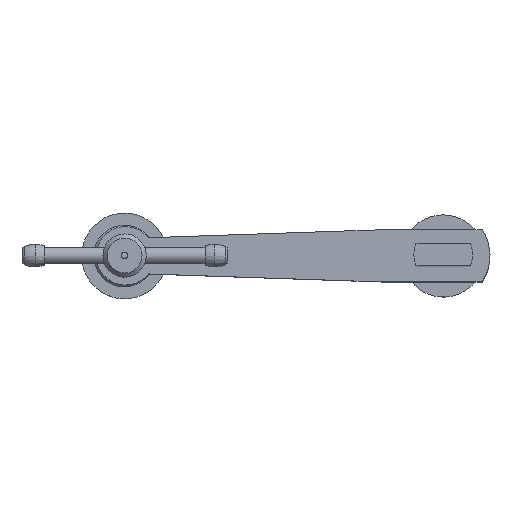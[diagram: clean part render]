
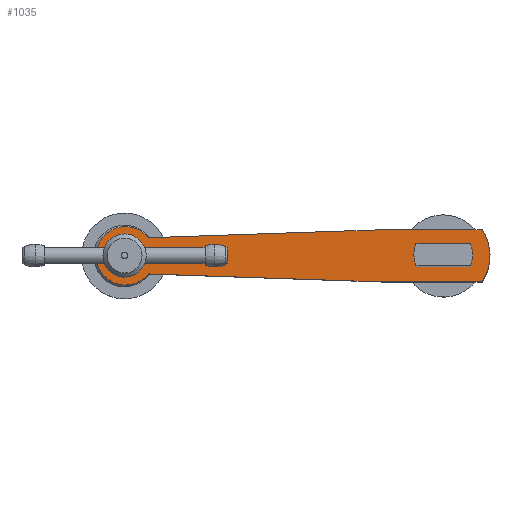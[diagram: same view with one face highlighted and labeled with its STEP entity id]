
A CAD part, top view. The second image highlights one B-rep face of the part: STEP entity #1035.
In plain terms, the highlighted free-form (B-spline) face has degree [1, 1] with [2, 2] control points.
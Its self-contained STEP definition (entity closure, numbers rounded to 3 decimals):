
#980=CARTESIAN_POINT('',(-185.656,-31.029,40.));
#981=CARTESIAN_POINT('',(-185.656,192.189,40.));
#982=CARTESIAN_POINT('',(37.561,-31.029,40.));
#983=CARTESIAN_POINT('',(37.561,192.189,40.));
#984=B_SPLINE_SURFACE_WITH_KNOTS('',1,1,((#980,#981),(#982,#983)),.PLANE_SURF.,.F.,.F.,.U.,(2,2),(2,2),(0.,1.),(0.,1.),.UNSPECIFIED.);
#985=CARTESIAN_POINT('',(18.866,-12.7,40.));
#986=VERTEX_POINT('',#985);
#987=CARTESIAN_POINT('',(18.866,12.7,40.));
#988=VERTEX_POINT('',#987);
#989=CARTESIAN_POINT('',(18.866,-12.7,40.));
#990=CARTESIAN_POINT('',(27.415,0.,40.));
#991=CARTESIAN_POINT('',(18.866,12.7,40.));
#992=(BOUNDED_CURVE()B_SPLINE_CURVE(2,(#989,#990,#991),.CIRCULAR_ARC.,.F.,.U.)B_SPLINE_CURVE_WITH_KNOTS((3,3),(0.,1.),.UNSPECIFIED.)CURVE()GEOMETRIC_REPRESENTATION_ITEM()RATIONAL_B_SPLINE_CURVE((1.,0.83,1.))REPRESENTATION_ITEM(''));
#993=EDGE_CURVE('',#986,#988,#992,.T.);
#994=ORIENTED_EDGE('',*,*,#993,.T.);
#995=CARTESIAN_POINT('',(-29.762,12.7,40.));
#996=VERTEX_POINT('',#995);
#997=CARTESIAN_POINT('',(18.866,12.7,40.));
#998=CARTESIAN_POINT('',(-29.762,12.7,40.));
#999=B_SPLINE_CURVE_WITH_KNOTS('',1,(#997,#998),.POLYLINE_FORM.,.F.,.U.,(2,2),(0.,1.),.UNSPECIFIED.);
#1000=EDGE_CURVE('',#988,#996,#999,.T.);
#1001=ORIENTED_EDGE('',*,*,#1000,.T.);
#1002=CARTESIAN_POINT('',(-143.382,8.805,40.));
#1003=VERTEX_POINT('',#1002);
#1004=CARTESIAN_POINT('',(-29.762,12.7,40.));
#1005=CARTESIAN_POINT('',(-143.382,8.805,40.));
#1006=B_SPLINE_CURVE_WITH_KNOTS('',1,(#1004,#1005),.POLYLINE_FORM.,.F.,.U.,(2,2),(0.,1.),.UNSPECIFIED.);
#1007=EDGE_CURVE('',#996,#1003,#1006,.T.);
#1008=ORIENTED_EDGE('',*,*,#1007,.T.);
#1009=CARTESIAN_POINT('',(-143.393,-8.805,40.));
#1010=VERTEX_POINT('',#1009);
#1011=CARTESIAN_POINT('',(-143.382,8.805,40.));
#1012=CARTESIAN_POINT('',(-152.9,20.895,40.));
#1013=CARTESIAN_POINT('',(-164.205,10.458,40.));
#1014=CARTESIAN_POINT('',(-175.51,0.02,40.));
#1015=CARTESIAN_POINT('',(-164.218,-10.431,40.));
#1016=CARTESIAN_POINT('',(-152.926,-20.882,40.));
#1017=CARTESIAN_POINT('',(-143.393,-8.805,40.));
#1018=(BOUNDED_CURVE()B_SPLINE_CURVE(2,(#1011,#1012,#1013,#1014,#1015,#1016,#1017),.CIRCULAR_ARC.,.F.,.U.)B_SPLINE_CURVE_WITH_KNOTS((3,2,2,3),(0.,0.333,0.667,1.),.UNSPECIFIED.)CURVE()GEOMETRIC_REPRESENTATION_ITEM()RATIONAL_B_SPLINE_CURVE((1.,0.679,1.,0.679,1.,0.679,1.))REPRESENTATION_ITEM(''));
#1019=EDGE_CURVE('',#1003,#1010,#1018,.T.);
#1020=ORIENTED_EDGE('',*,*,#1019,.T.);
#1021=CARTESIAN_POINT('',(-29.762,-12.7,40.));
#1022=VERTEX_POINT('',#1021);
#1023=CARTESIAN_POINT('',(-143.393,-8.805,40.));
#1024=CARTESIAN_POINT('',(-29.762,-12.7,40.));
#1025=B_SPLINE_CURVE_WITH_KNOTS('',1,(#1023,#1024),.POLYLINE_FORM.,.F.,.U.,(2,2),(0.,1.),.UNSPECIFIED.);
#1026=EDGE_CURVE('',#1010,#1022,#1025,.T.);
#1027=ORIENTED_EDGE('',*,*,#1026,.T.);
#1028=CARTESIAN_POINT('',(-29.762,-12.7,40.));
#1029=CARTESIAN_POINT('',(18.866,-12.7,40.));
#1030=B_SPLINE_CURVE_WITH_KNOTS('',1,(#1028,#1029),.POLYLINE_FORM.,.F.,.U.,(2,2),(0.,1.),.UNSPECIFIED.);
#1031=EDGE_CURVE('',#1022,#986,#1030,.T.);
#1032=ORIENTED_EDGE('',*,*,#1031,.T.);
#1033=EDGE_LOOP('',(#994,#1001,#1008,#1020,#1027,#1032));
#1034=FACE_OUTER_BOUND('',#1033,.T.);
#1035=ADVANCED_FACE('',(#1034),#984,.T.);
